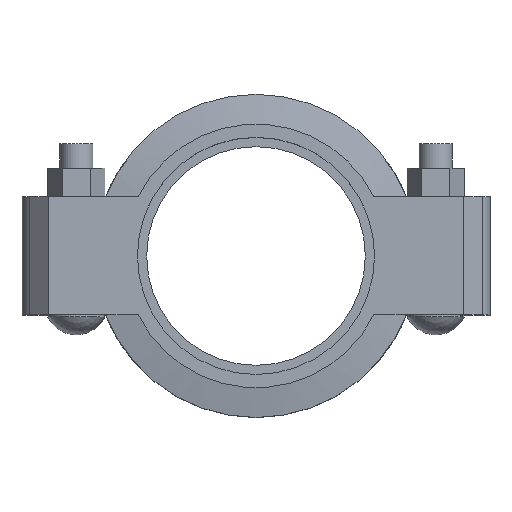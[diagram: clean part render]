
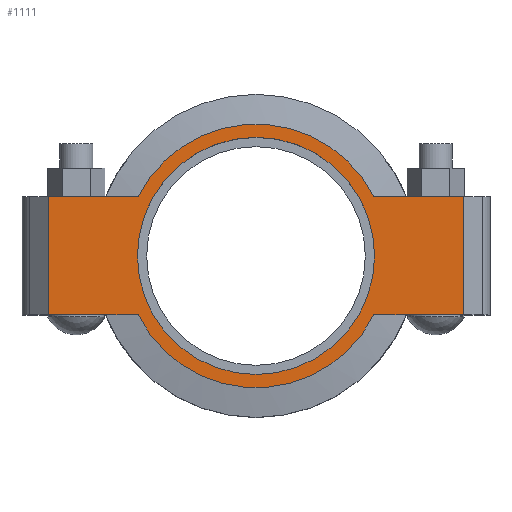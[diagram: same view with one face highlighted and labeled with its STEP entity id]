
A CAD part, top view. The second image highlights one B-rep face of the part: STEP entity #1111.
In plain terms, the highlighted planar face has unit normal (0, 0, 1).
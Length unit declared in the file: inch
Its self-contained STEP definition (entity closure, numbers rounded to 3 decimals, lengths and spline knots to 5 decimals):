
#75=FACE_BOUND('',#226,.T.);
#105=PLANE('',#1226);
#153=FACE_OUTER_BOUND('',#225,.T.);
#225=EDGE_LOOP('',(#888,#889,#890,#891,#892,#893,#894,#895));
#226=EDGE_LOOP('',(#896));
#298=LINE('',#1752,#385);
#313=LINE('',#1811,#400);
#321=LINE('',#1841,#408);
#323=LINE('',#1844,#410);
#324=LINE('',#1849,#411);
#325=LINE('',#1850,#412);
#385=VECTOR('',#1433,0.3937);
#400=VECTOR('',#1468,0.3937);
#408=VECTOR('',#1488,0.3937);
#410=VECTOR('',#1492,0.3937);
#411=VECTOR('',#1497,0.3937);
#412=VECTOR('',#1498,0.3937);
#437=CIRCLE('',#1183,2.25);
#453=CIRCLE('',#1227,2.5);
#454=CIRCLE('',#1228,2.5);
#480=VERTEX_POINT('',#1644);
#515=VERTEX_POINT('',#1749);
#516=VERTEX_POINT('',#1751);
#537=VERTEX_POINT('',#1806);
#538=VERTEX_POINT('',#1810);
#547=VERTEX_POINT('',#1836);
#548=VERTEX_POINT('',#1840);
#549=VERTEX_POINT('',#1846);
#550=VERTEX_POINT('',#1848);
#581=EDGE_CURVE('',#480,#480,#437,.T.);
#632=EDGE_CURVE('',#516,#515,#298,.T.);
#657=EDGE_CURVE('',#538,#537,#313,.T.);
#670=EDGE_CURVE('',#548,#547,#321,.T.);
#672=EDGE_CURVE('',#548,#515,#323,.T.);
#673=EDGE_CURVE('',#547,#549,#453,.T.);
#674=EDGE_CURVE('',#549,#550,#324,.T.);
#675=EDGE_CURVE('',#538,#550,#325,.T.);
#676=EDGE_CURVE('',#537,#516,#454,.T.);
#888=ORIENTED_EDGE('',*,*,#672,.F.);
#889=ORIENTED_EDGE('',*,*,#670,.T.);
#890=ORIENTED_EDGE('',*,*,#673,.T.);
#891=ORIENTED_EDGE('',*,*,#674,.T.);
#892=ORIENTED_EDGE('',*,*,#675,.F.);
#893=ORIENTED_EDGE('',*,*,#657,.T.);
#894=ORIENTED_EDGE('',*,*,#676,.T.);
#895=ORIENTED_EDGE('',*,*,#632,.T.);
#896=ORIENTED_EDGE('',*,*,#581,.T.);
#1111=ADVANCED_FACE('',(#153,#75),#105,.T.);
#1183=AXIS2_PLACEMENT_3D('',#1646,#1337,#1338);
#1226=AXIS2_PLACEMENT_3D('',#1845,#1493,#1494);
#1227=AXIS2_PLACEMENT_3D('',#1847,#1495,#1496);
#1228=AXIS2_PLACEMENT_3D('',#1851,#1499,#1500);
#1337=DIRECTION('center_axis',(0.,0.,-1.));
#1338=DIRECTION('ref_axis',(1.,0.,0.));
#1433=DIRECTION('',(1.,0.,0.));
#1468=DIRECTION('',(1.,0.,0.));
#1488=DIRECTION('',(-1.,0.,0.));
#1492=DIRECTION('',(0.,-1.,0.));
#1493=DIRECTION('center_axis',(0.,0.,1.));
#1494=DIRECTION('ref_axis',(-1.,0.,0.));
#1495=DIRECTION('center_axis',(0.,0.,1.));
#1496=DIRECTION('ref_axis',(1.,0.,0.));
#1497=DIRECTION('',(-1.,0.,0.));
#1498=DIRECTION('',(0.,1.,0.));
#1499=DIRECTION('center_axis',(0.,0.,1.));
#1500=DIRECTION('ref_axis',(1.,0.,0.));
#1644=CARTESIAN_POINT('',(-2.25,0.,1.065));
#1646=CARTESIAN_POINT('Origin',(0.,0.,1.065));
#1749=CARTESIAN_POINT('',(3.94,-1.12,1.065));
#1751=CARTESIAN_POINT('',(2.23508,-1.12,1.065));
#1752=CARTESIAN_POINT('',(-4.44,-1.12,1.065));
#1806=CARTESIAN_POINT('',(-2.23508,-1.12,1.065));
#1810=CARTESIAN_POINT('',(-3.94,-1.12,1.065));
#1811=CARTESIAN_POINT('',(-4.44,-1.12,1.065));
#1836=CARTESIAN_POINT('',(2.23508,1.12,1.065));
#1840=CARTESIAN_POINT('',(3.94,1.12,1.065));
#1841=CARTESIAN_POINT('',(4.44,1.12,1.065));
#1844=CARTESIAN_POINT('',(3.94,-0.56,1.065));
#1845=CARTESIAN_POINT('Origin',(0.,0.,
1.065));
#1846=CARTESIAN_POINT('',(-2.23508,1.12,1.065));
#1847=CARTESIAN_POINT('Origin',(0.,0.,1.065));
#1848=CARTESIAN_POINT('',(-3.94,1.12,1.065));
#1849=CARTESIAN_POINT('',(4.44,1.12,1.065));
#1850=CARTESIAN_POINT('',(-3.94,0.56,1.065));
#1851=CARTESIAN_POINT('Origin',(0.,0.,1.065));
